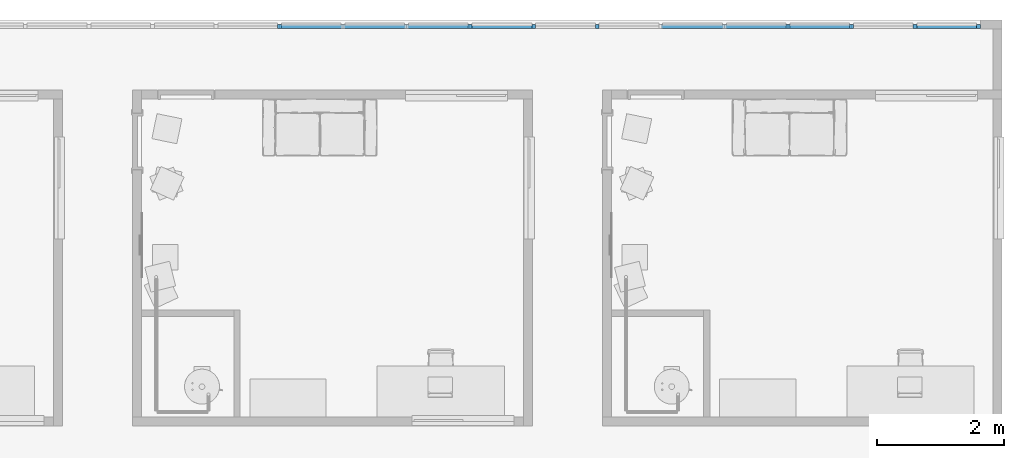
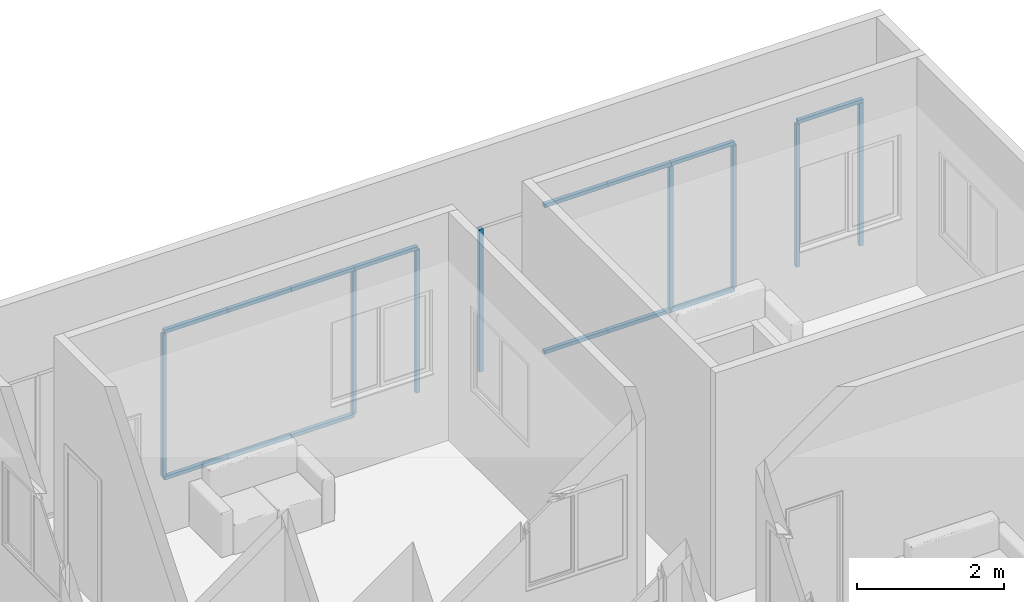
# One storey, part 4 of 69: 22 members, 1 element without a shape of its own.
"""IFC4 building model written with IfcOpenShell, lengths in centimetres."""

import ifcopenshell
import ifcopenshell.guid

model = None  # the IFC model being written
_history = None  # IfcOwnerHistory: only IFC2X3 demands one
_inside = {}  # id of a spatial element -> (the spatial element, [elements in it])
_under = {}  # id of a project, library or spatial element -> (it, [spatial elements below it])
_declared = {}  # id of a project -> (the project, [libraries it declares])
_typed = {}  # id of a type object -> (the type object, [elements of that type])
_made_of = {}  # id of a material, layer set ... -> (it, [elements and type objects made of it])


def new_model(schema):
    """Start an empty IFC model of exactly this schema.

    Asked for "IFC4X3", IfcOpenShell would pick the latest addendum, in which some entities
    have other attributes; the version numbers below select the first issue.
    IFC2X3 requires an IfcOwnerHistory on every rooted entity: one is made here for all.
    """
    global model, _history
    if schema == "IFC4X3":
        model = ifcopenshell.file(schema_version=(4, 3, 0, 0))
    else:
        model = ifcopenshell.file(schema=schema)
    _inside.clear()
    _under.clear()
    _declared.clear()
    _typed.clear()
    _made_of.clear()
    _history = None
    if model.schema == "IFC2X3":
        org = make("IfcOrganization", Name="unknown")
        user = make(
            "IfcPersonAndOrganization",
            ThePerson=make("IfcPerson", FamilyName="unknown"),
            TheOrganization=org,
        )
        app = make(
            "IfcApplication",
            ApplicationDeveloper=org,
            Version="unknown",
            ApplicationFullName="unknown",
            ApplicationIdentifier="unknown",
        )
        _history = make(
            "IfcOwnerHistory",
            OwningUser=user,
            OwningApplication=app,
            ChangeAction="ADDED",
            CreationDate=0,
        )
    return model


def make(cls, **values):
    """One entity of the class cls with the attributes given. An attribute that is None is left unset."""
    return model.create_entity(
        cls, **{name: value for name, value in values.items() if value is not None}
    )


def entity(cls, *values):
    """Any entity or typed value of the class cls, its attributes in the order of the schema. None: left unset."""
    e = model.create_entity(cls)
    for i, value in enumerate(values):
        if value is not None:
            e[i] = value
    return e


def rooted(cls, **values):
    """An entity with a GlobalId (a new one), such as an element, a storey or a relation."""
    return make(cls, GlobalId=ifcopenshell.guid.new(), OwnerHistory=_history, **values)


def si_unit(unit_type, name, prefix=None):
    """IfcSIUnit, for example si_unit("LENGTHUNIT", "METRE", prefix="MILLI")."""
    return make("IfcSIUnit", UnitType=unit_type, Prefix=prefix, Name=name)


def converted_unit(unit_type, name, factor, base, dimensions=None, offset=None):
    """IfcConversionBasedUnit, such as the inch: factor (a typed value) times the base unit."""
    return make(
        "IfcConversionBasedUnit"
        if offset is None
        else "IfcConversionBasedUnitWithOffset",
        ConversionOffset=offset,
        Dimensions=None
        if dimensions is None
        else entity("IfcDimensionalExponents", *dimensions),
        UnitType=unit_type,
        Name=name,
        ConversionFactor=make(
            "IfcMeasureWithUnit", ValueComponent=factor, UnitComponent=base
        ),
    )


def derived_unit(unit_type, elements):
    """IfcDerivedUnit: a product of units, each with its exponent."""
    return make(
        "IfcDerivedUnit",
        Elements=[
            make("IfcDerivedUnitElement", Unit=unit, Exponent=power)
            for unit, power in elements
        ],
        UnitType=unit_type,
    )


def assignment(units):
    """IfcUnitAssignment: the units of a project."""
    return None if units is None else make("IfcUnitAssignment", Units=units)


def point(xyz):
    """IfcCartesianPoint."""
    return None if xyz is None else make("IfcCartesianPoint", Coordinates=xyz)


def direction(xyz):
    """IfcDirection."""
    return None if xyz is None else make("IfcDirection", DirectionRatios=xyz)


def frame(location, z_axis=None, x_axis=None):
    """IfcAxis2Placement3D, a coordinate frame: its origin and axes. An axis left out is left unset."""
    return make(
        "IfcAxis2Placement3D",
        Location=point(location),
        Axis=direction(z_axis),
        RefDirection=direction(x_axis),
    )


def origin():
    """The frame at (0, 0, 0) with its axes left unset."""
    return frame((0.0, 0.0, 0.0))


def place(relative_to, where):
    """IfcLocalPlacement: puts the frame where relative to a parent placement (None: the world)."""
    return make(
        "IfcLocalPlacement", PlacementRelTo=relative_to, RelativePlacement=where
    )


def context(
    kind, dimensions, precision=None, world=None, true_north=None, identifier=None
):
    """IfcGeometricRepresentationContext, for example the 3D "Model" context."""
    return make(
        "IfcGeometricRepresentationContext",
        ContextIdentifier=identifier,
        ContextType=kind,
        CoordinateSpaceDimension=dimensions,
        Precision=precision,
        WorldCoordinateSystem=world,
        TrueNorth=true_north,
    )


def subcontext(parent, identifier, kind, view, scale=None):
    """IfcGeometricRepresentationSubContext, for example "Body" below "Model"."""
    return make(
        "IfcGeometricRepresentationSubContext",
        ContextIdentifier=identifier,
        ContextType=kind,
        ParentContext=parent,
        TargetScale=scale,
        TargetView=view,
    )


def project(units=None, contexts=None):
    """IfcProject with its units and contexts."""
    return rooted(
        "IfcProject",
        Name="project",
        RepresentationContexts=contexts,
        UnitsInContext=assignment(units),
    )


def spatial(cls, under=None, at=None, **own):
    """A site, building, storey or space (cls), placed at a placement, below another one or the project."""
    s = rooted(cls, ObjectPlacement=at, **own)
    if under is not None:
        _under.setdefault(under.id(), (under, []))[1].append(s)
    return s


def point_list(points):
    """IfcCartesianPointList2D or 3D."""
    cls = (
        "IfcCartesianPointList2D" if len(points[0]) == 2 else "IfcCartesianPointList3D"
    )
    return make(cls, CoordList=points)


def indexed_curve(points, segments=None, self_intersect=None):
    """IfcIndexedPolyCurve: lines and arcs through numbered points (the first is 1)."""
    return make(
        "IfcIndexedPolyCurve",
        Points=point_list(points),
        Segments=segments,
        SelfIntersect=self_intersect,
    )


def outline(outer, holes=None, kind="AREA"):
    """IfcArbitraryClosedProfileDef: a profile drawn as a closed curve; with holes, ...WithVoids."""
    if holes is None:
        return make("IfcArbitraryClosedProfileDef", ProfileType=kind, OuterCurve=outer)
    return make(
        "IfcArbitraryProfileDefWithVoids",
        ProfileType=kind,
        OuterCurve=outer,
        InnerCurves=holes,
    )


def extrude(swept, where, along, depth):
    """IfcExtrudedAreaSolid: the profile swept, set in the frame where, extruded along a direction by depth."""
    return make(
        "IfcExtrudedAreaSolid",
        SweptArea=swept,
        Position=where,
        ExtrudedDirection=direction(along),
        Depth=depth,
    )


def shape(context_of_items, identifier, shape_type, items):
    """IfcShapeRepresentation: the items that make up one representation, for example the "Body"."""
    return make(
        "IfcShapeRepresentation",
        ContextOfItems=context_of_items,
        RepresentationIdentifier=identifier,
        RepresentationType=shape_type,
        Items=items,
    )


def source(mapping_origin, context_of_items, identifier, shape_type, items):
    """IfcRepresentationMap: a shape defined once, which mapped items show again and again."""
    return make(
        "IfcRepresentationMap",
        MappingOrigin=mapping_origin,
        MappedRepresentation=shape(context_of_items, identifier, shape_type, items),
    )


def transform(
    local_origin,
    x_axis=None,
    y_axis=None,
    z_axis=None,
    scale=None,
    scale2=None,
    scale3=None,
    uniform=True,
):
    """IfcCartesianTransformationOperator3D, or its non-uniform kind. x_axis, y_axis, z_axis: its Axis1, 2, 3."""
    if uniform:
        return make(
            "IfcCartesianTransformationOperator3D",
            Axis1=direction(x_axis),
            Axis2=direction(y_axis),
            LocalOrigin=point(local_origin),
            Scale=scale,
            Axis3=direction(z_axis),
        )
    return make(
        "IfcCartesianTransformationOperator3DnonUniform",
        Axis1=direction(x_axis),
        Axis2=direction(y_axis),
        LocalOrigin=point(local_origin),
        Scale=scale,
        Axis3=direction(z_axis),
        Scale2=scale2,
        Scale3=scale3,
    )


def mapped(mapping_source, mapping_target):
    """IfcMappedItem: shows the shape of a source again, moved by a transform."""
    return make(
        "IfcMappedItem", MappingSource=mapping_source, MappingTarget=mapping_target
    )


def material(Name=None, Category=None):
    """IfcMaterial."""
    return make("IfcMaterial", Name=Name, Category=Category)


def made_of(thing, what):
    """Note that an element or type object is made of a material, layer set ...; save() writes the relation."""
    if what is not None:
        _made_of.setdefault(what.id(), (what, []))[1].append(thing)
    return thing


def type_object(cls, material=None, **own):
    """A type object (cls), such as IfcWallType, which elements share."""
    return made_of(rooted(cls, **own), material)


def type_shapes(of_type, sources):
    """Give a type object the sources (RepresentationMaps) that its elements show as mapped items."""
    of_type.RepresentationMaps = sources


def element(
    cls,
    number,
    at=None,
    inside=None,
    cuts=None,
    type_object=None,
    material=None,
    context=None,
    identifier="Body",
    shape_type=None,
    held_by="IfcProductDefinitionShape",
    body=None,
    shapes=None,
    **own,
):
    """One element of the class cls, such as IfcWall. Its Tag is "e" and its number.

    at: its placement. inside: the storey or other place that contains it. cuts: it is an
    opening in that element (IfcRelVoidsElement). A single representation is given by context,
    identifier, shape_type and body (its items); several are given by shapes. held_by: the class
    of the entity that holds the representations. save() writes the other relations.
    """
    e = rooted(cls, Tag="e%d" % number, ObjectPlacement=at, **own)
    if body is not None:
        shapes = [shape(context, identifier, shape_type, body)]
    if shapes is not None:
        e.Representation = make(held_by, Representations=shapes)
    if inside is not None:
        _inside.setdefault(inside.id(), (inside, []))[1].append(e)
    if cuts is not None:
        rooted(
            "IfcRelVoidsElement", RelatingBuildingElement=cuts, RelatedOpeningElement=e
        )
    if type_object is not None:
        _typed.setdefault(type_object.id(), (type_object, []))[1].append(e)
    return made_of(e, material)


def aggregate(whole, parts):
    """IfcRelAggregates: a whole, such as a stair, and the parts it consists of."""
    return rooted("IfcRelAggregates", RelatingObject=whole, RelatedObjects=parts)


def save(model, path):
    """Write the relations noted so far, then the file.

    IfcRelAggregates (storeys below a building ...), IfcRelContainedInSpatialStructure (elements
    in a storey), IfcRelDefinesByType, IfcRelAssociatesMaterial and IfcRelDeclares: one each for
    every whole, place, type object, material and project.
    """
    for whole, parts in _under.values():
        aggregate(whole, parts)
    for where, things in _inside.values():
        rooted(
            "IfcRelContainedInSpatialStructure",
            RelatedElements=things,
            RelatingStructure=where,
        )
    for kind, things in _typed.values():
        rooted("IfcRelDefinesByType", RelatedObjects=things, RelatingType=kind)
    for what, things in _made_of.values():
        rooted("IfcRelAssociatesMaterial", RelatedObjects=things, RelatingMaterial=what)
    for by, libraries in _declared.values():
        rooted("IfcRelDeclares", RelatingContext=by, RelatedDefinitions=libraries)
    model.write(path)


model = new_model("IFC4")

# Units and contexts
model_context = context("Model", 3, precision=0.001, world=origin(), true_north=direction((6.123233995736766e-17, 1.0)))
body_context = subcontext(model_context, "Body", "Model", "MODEL_VIEW")
ifc_project = project(units=[si_unit("LENGTHUNIT", "METRE", prefix="CENTI"), si_unit("AREAUNIT", "SQUARE_METRE"), si_unit("VOLUMEUNIT", "CUBIC_METRE"), derived_unit("THERMALTRANSMITTANCEUNIT", [(si_unit("MASSUNIT", "GRAM", prefix="KILO"), 1), (si_unit("THERMODYNAMICTEMPERATUREUNIT", "KELVIN"), -1), (si_unit("TIMEUNIT", "SECOND"), -3)]), converted_unit("PLANEANGLEUNIT", "DEGREE", entity("IfcPlaneAngleMeasure", 0.017453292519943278), si_unit("PLANEANGLEUNIT", "RADIAN"), dimensions=[0, 0, 0, 0, 0, 0, 0]), derived_unit("MASSDENSITYUNIT", [(si_unit("MASSUNIT", "GRAM", prefix="KILO"), 1), (si_unit("LENGTHUNIT", "METRE"), -3)]), derived_unit("VAPORPERMEABILITYUNIT", [(si_unit("LENGTHUNIT", "METRE"), -1), (si_unit("TIMEUNIT", "SECOND"), 1)]), derived_unit("USERDEFINED", [(si_unit("MASSUNIT", "GRAM", prefix="KILO"), 1), (si_unit("TIMEUNIT", "SECOND"), -3), (si_unit("LENGTHUNIT", "METRE"), 3), (si_unit("ELECTRICCURRENTUNIT", "AMPERE"), -2)]), derived_unit("SPECIFICHEATCAPACITYUNIT", [(si_unit("THERMODYNAMICTEMPERATUREUNIT", "KELVIN"), -1), (si_unit("LENGTHUNIT", "METRE"), 2), (si_unit("TIMEUNIT", "SECOND"), -2)]), derived_unit("THERMALCONDUCTANCEUNIT", [(si_unit("MASSUNIT", "GRAM", prefix="KILO"), 1), (si_unit("THERMODYNAMICTEMPERATUREUNIT", "KELVIN"), -1), (si_unit("TIMEUNIT", "SECOND"), -3), (si_unit("LENGTHUNIT", "METRE"), 1)]), si_unit("PRESSUREUNIT", "PASCAL"), derived_unit("MODULUSOFELASTICITYUNIT", [(si_unit("MASSUNIT", "GRAM", prefix="KILO"), 1), (si_unit("LENGTHUNIT", "METRE"), -1), (si_unit("TIMEUNIT", "SECOND"), -2)]), derived_unit("THERMALEXPANSIONCOEFFICIENTUNIT", [(si_unit("THERMODYNAMICTEMPERATUREUNIT", "KELVIN"), -1)])], contexts=[model_context])

# Site, building, storey
site_placement = place(None, origin())
site = spatial("IfcSite", under=ifc_project, at=site_placement, Name="Default", CompositionType="ELEMENT")
building_placement = place(site_placement, origin())
building = spatial("IfcBuilding", under=site, at=building_placement, Name="IDS Escape Game Building", CompositionType="ELEMENT")
storey_placement = place(building_placement, origin())
storey = spatial("IfcBuildingStorey", under=building, at=storey_placement, Name="00_Ground Floor", CompositionType="ELEMENT", Elevation=0.0)

# Curtain wall, members
curtain_wall_type = type_object("IfcCurtainWallType", Name="Curtain Wall:ARC_31.3_CWA_LIB_bandraam vast 100cm - profiel 60x60_gen_BERSnl", PredefinedType="NOTDEFINED")
curtain_wall_placement = place(storey_placement, origin())
curtain_wall = element("IfcCurtainWall", 1, at=curtain_wall_placement, inside=storey, type_object=curtain_wall_type, Name="Curtain Wall:ARC_31.3_CWA_LIB_bandraam vast 100cm - profiel 60x60_gen_BERSnl", ObjectType="Curtain Wall:ARC_31.3_CWA_LIB_bandraam vast 100cm - profiel 60x60_gen_BERSnl", PredefinedType="NOTDEFINED")
ifc_material = material(Name="<Unnamed>")
member_type_1 = type_object("IfcMemberType", Name="Rectangular Mullion:30-_Stijl_Rechthoek_Midden_B60xD60", PredefinedType="MULLION", material=ifc_material)
shared_shape_1 = source(origin(), body_context, "Body", "SweptSolid", [
    extrude(outline(indexed_curve([(-3.0, -3.0), (3.0, -3.0), (3.0, 3.0), (-3.0, 3.0), (-3.0, -3.0)], self_intersect=False)), frame((-3.0, 3.0, -102.84313728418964), z_axis=(0.0, 0.0, 1.0), x_axis=(-1.0, 0.0, 0.0)), (0.0, 0.0, 1.0), 102.84313728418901),
])
type_shapes(member_type_1, [shared_shape_1])
member_1_placement = place(curtain_wall_placement, frame((5015.0, 3182.0, 250.0), z_axis=(1.0, 0.0, 0.0), x_axis=(0.0, 0.0, 1.0)))
member_1 = element("IfcMember", 2, at=member_1_placement, type_object=member_type_1, material=ifc_material, Name="Rectangular Mullion:30-_Stijl_Rechthoek_Midden_B60xD60", ObjectType="Rectangular Mullion:30-_Stijl_Rechthoek_Midden_B60xD60", PredefinedType="MULLION", context=body_context, shape_type="MappedRepresentation", body=[
    mapped(shared_shape_1, transform((0.0, 0.0, 0.0), scale=1.0)),
])
member_type_2 = type_object("IfcMemberType", Name="Rectangular Mullion:30-_Stijl_Rechthoek_Midden_B60xD60", PredefinedType="MULLION", material=ifc_material)
shared_shape_2 = source(origin(), body_context, "Body", "SweptSolid", [
    extrude(outline(indexed_curve([(-3.0, -3.0), (3.0, -3.0), (3.0, 3.0), (-3.0, 3.0), (-3.0, -3.0)], self_intersect=False)), frame((-3.0, 3.0, -99.84313725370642), z_axis=(0.0, 0.0, 1.0), x_axis=(-1.0, 0.0, 0.0)), (0.0, 0.0, 1.0), 99.84313725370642),
])
type_shapes(member_type_2, [shared_shape_2])
member_2_placement = place(curtain_wall_placement, frame((4013.568627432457, 3182.0, 250.0), z_axis=(1.0, 0.0, 0.0), x_axis=(0.0, 0.0, 1.0)))
member_2 = element("IfcMember", 3, at=member_2_placement, type_object=member_type_2, material=ifc_material, Name="Rectangular Mullion:30-_Stijl_Rechthoek_Midden_B60xD60", ObjectType="Rectangular Mullion:30-_Stijl_Rechthoek_Midden_B60xD60", PredefinedType="MULLION", context=body_context, shape_type="MappedRepresentation", body=[
    mapped(shared_shape_2, transform((0.0, 0.0, 0.0), scale=1.0)),
])
member_3_placement = place(curtain_wall_placement, frame((4113.411764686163, 3182.0, 250.0), z_axis=(1.0, 0.0, 0.0), x_axis=(0.0, 0.0, 1.0)))
member_3 = element("IfcMember", 4, at=member_3_placement, type_object=member_type_2, material=ifc_material, Name="Rectangular Mullion:30-_Stijl_Rechthoek_Midden_B60xD60", ObjectType="Rectangular Mullion:30-_Stijl_Rechthoek_Midden_B60xD60", PredefinedType="MULLION", context=body_context, shape_type="MappedRepresentation", body=[
    mapped(shared_shape_2, transform((0.0, 0.0, 0.0), scale=1.0)),
])
member_4_placement = place(curtain_wall_placement, frame((4213.25490193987, 3182.0, 250.0), z_axis=(1.0, 0.0, 0.0), x_axis=(0.0, 0.0, 1.0)))
member_4 = element("IfcMember", 5, at=member_4_placement, type_object=member_type_2, material=ifc_material, Name="Rectangular Mullion:30-_Stijl_Rechthoek_Midden_B60xD60", ObjectType="Rectangular Mullion:30-_Stijl_Rechthoek_Midden_B60xD60", PredefinedType="MULLION", context=body_context, shape_type="MappedRepresentation", body=[
    mapped(shared_shape_2, transform((0.0, 0.0, 0.0), scale=1.0)),
])
member_5_placement = place(curtain_wall_placement, frame((4313.098039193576, 3182.0, 250.0), z_axis=(1.0, 0.0, 0.0), x_axis=(0.0, 0.0, 1.0)))
member_5 = element("IfcMember", 6, at=member_5_placement, type_object=member_type_2, material=ifc_material, Name="Rectangular Mullion:30-_Stijl_Rechthoek_Midden_B60xD60", ObjectType="Rectangular Mullion:30-_Stijl_Rechthoek_Midden_B60xD60", PredefinedType="MULLION", context=body_context, shape_type="MappedRepresentation", body=[
    mapped(shared_shape_2, transform((0.0, 0.0, 0.0), scale=1.0)),
])
member_6_placement = place(curtain_wall_placement, frame((4612.6274509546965, 3182.0, 250.0), z_axis=(1.0, 0.0, 0.0), x_axis=(0.0, 0.0, 1.0)))
member_6 = element("IfcMember", 7, at=member_6_placement, type_object=member_type_2, material=ifc_material, Name="Rectangular Mullion:30-_Stijl_Rechthoek_Midden_B60xD60", ObjectType="Rectangular Mullion:30-_Stijl_Rechthoek_Midden_B60xD60", PredefinedType="MULLION", context=body_context, shape_type="MappedRepresentation", body=[
    mapped(shared_shape_2, transform((0.0, 0.0, 0.0), scale=1.0)),
])
member_7_placement = place(curtain_wall_placement, frame((4712.470588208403, 3182.0, 250.0), z_axis=(1.0, 0.0, 0.0), x_axis=(0.0, 0.0, 1.0)))
member_7 = element("IfcMember", 8, at=member_7_placement, type_object=member_type_2, material=ifc_material, Name="Rectangular Mullion:30-_Stijl_Rechthoek_Midden_B60xD60", ObjectType="Rectangular Mullion:30-_Stijl_Rechthoek_Midden_B60xD60", PredefinedType="MULLION", context=body_context, shape_type="MappedRepresentation", body=[
    mapped(shared_shape_2, transform((0.0, 0.0, 0.0), scale=1.0)),
])
member_8_placement = place(curtain_wall_placement, frame((4812.31372546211, 3182.0, 250.0), z_axis=(1.0, 0.0, 0.0), x_axis=(0.0, 0.0, 1.0)))
member_8 = element("IfcMember", 9, at=member_8_placement, type_object=member_type_2, material=ifc_material, Name="Rectangular Mullion:30-_Stijl_Rechthoek_Midden_B60xD60", ObjectType="Rectangular Mullion:30-_Stijl_Rechthoek_Midden_B60xD60", PredefinedType="MULLION", context=body_context, shape_type="MappedRepresentation", body=[
    mapped(shared_shape_2, transform((0.0, 0.0, 0.0), scale=1.0)),
])
member_type_3 = type_object("IfcMemberType", Name="Rectangular Mullion:30-_Stijl_Rechthoek_Midden_B60xD60", PredefinedType="MULLION", material=ifc_material)
shared_shape_3 = source(origin(), body_context, "Body", "SweptSolid", [
    extrude(outline(indexed_curve([(-3.0, -3.0), (3.0, -3.0), (3.0, 3.0), (-3.0, 3.0), (-3.0, -3.0)], self_intersect=False)), frame((-3.0, 3.0, -99.84313725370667), z_axis=(0.0, 0.0, 1.0), x_axis=(-1.0, 0.0, 0.0)), (0.0, 0.0, 1.0), 99.84313725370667),
])
type_shapes(member_type_3, [shared_shape_3])
member_9_placement = place(curtain_wall_placement, frame((3913.7254901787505, 3182.0, 0.0), z_axis=(-1.0, 0.0, 0.0), x_axis=(0.0, 0.0, -1.0)))
member_9 = element("IfcMember", 10, at=member_9_placement, type_object=member_type_3, material=ifc_material, Name="Rectangular Mullion:30-_Stijl_Rechthoek_Midden_B60xD60", ObjectType="Rectangular Mullion:30-_Stijl_Rechthoek_Midden_B60xD60", PredefinedType="MULLION", context=body_context, shape_type="MappedRepresentation", body=[
    mapped(shared_shape_3, transform((0.0, 0.0, 0.0), scale=1.0)),
])
member_10_placement = place(curtain_wall_placement, frame((4013.568627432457, 3182.0, 0.0), z_axis=(-1.0, 0.0, 0.0), x_axis=(0.0, 0.0, -1.0)))
member_10 = element("IfcMember", 11, at=member_10_placement, type_object=member_type_3, material=ifc_material, Name="Rectangular Mullion:30-_Stijl_Rechthoek_Midden_B60xD60", ObjectType="Rectangular Mullion:30-_Stijl_Rechthoek_Midden_B60xD60", PredefinedType="MULLION", context=body_context, shape_type="MappedRepresentation", body=[
    mapped(shared_shape_3, transform((0.0, 0.0, 0.0), scale=1.0)),
])
member_11_placement = place(curtain_wall_placement, frame((4113.411764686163, 3182.0, 0.0), z_axis=(-1.0, 0.0, 0.0), x_axis=(0.0, 0.0, -1.0)))
member_11 = element("IfcMember", 12, at=member_11_placement, type_object=member_type_3, material=ifc_material, Name="Rectangular Mullion:30-_Stijl_Rechthoek_Midden_B60xD60", ObjectType="Rectangular Mullion:30-_Stijl_Rechthoek_Midden_B60xD60", PredefinedType="MULLION", context=body_context, shape_type="MappedRepresentation", body=[
    mapped(shared_shape_3, transform((0.0, 0.0, 0.0), scale=1.0)),
])
member_12_placement = place(curtain_wall_placement, frame((4512.7843137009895, 3182.0, 0.0), z_axis=(-1.0, 0.0, 0.0), x_axis=(0.0, 0.0, -1.0)))
member_12 = element("IfcMember", 13, at=member_12_placement, type_object=member_type_3, material=ifc_material, Name="Rectangular Mullion:30-_Stijl_Rechthoek_Midden_B60xD60", ObjectType="Rectangular Mullion:30-_Stijl_Rechthoek_Midden_B60xD60", PredefinedType="MULLION", context=body_context, shape_type="MappedRepresentation", body=[
    mapped(shared_shape_3, transform((0.0, 0.0, 0.0), scale=1.0)),
])
member_13_placement = place(curtain_wall_placement, frame((4612.6274509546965, 3182.0, 0.0), z_axis=(-1.0, 0.0, 0.0), x_axis=(0.0, 0.0, -1.0)))
member_13 = element("IfcMember", 14, at=member_13_placement, type_object=member_type_3, material=ifc_material, Name="Rectangular Mullion:30-_Stijl_Rechthoek_Midden_B60xD60", ObjectType="Rectangular Mullion:30-_Stijl_Rechthoek_Midden_B60xD60", PredefinedType="MULLION", context=body_context, shape_type="MappedRepresentation", body=[
    mapped(shared_shape_3, transform((0.0, 0.0, 0.0), scale=1.0)),
])
member_14_placement = place(curtain_wall_placement, frame((4712.470588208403, 3182.0, 0.0), z_axis=(-1.0, 0.0, 0.0), x_axis=(0.0, 0.0, -1.0)))
member_14 = element("IfcMember", 15, at=member_14_placement, type_object=member_type_3, material=ifc_material, Name="Rectangular Mullion:30-_Stijl_Rechthoek_Midden_B60xD60", ObjectType="Rectangular Mullion:30-_Stijl_Rechthoek_Midden_B60xD60", PredefinedType="MULLION", context=body_context, shape_type="MappedRepresentation", body=[
    mapped(shared_shape_3, transform((0.0, 0.0, 0.0), scale=1.0)),
])
member_type_4 = type_object("IfcMemberType", Name="Rectangular Mullion:30-_Stijl_Rechthoek_Midden_B60xD60", PredefinedType="MULLION", material=ifc_material)
shared_shape_4 = source(origin(), body_context, "Body", "SweptSolid", [
    extrude(outline(indexed_curve([(-3.0, -3.0), (3.0, -3.0), (3.0, 3.0), (-3.0, 3.0), (-3.0, -3.0)], self_intersect=False)), frame((-3.0, 3.0, -238.0), z_axis=(0.0, 0.0, 1.0), x_axis=(-1.0, 0.0, 0.0)), (0.0, 0.0, 1.0), 238.00000000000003),
])
type_shapes(member_type_4, [shared_shape_4])
member_15_placement = place(curtain_wall_placement, frame((5015.0, 3182.0, 6.0), z_axis=(0.0, 0.0, -1.0), x_axis=(1.0, 0.0, 0.0)))
member_15 = element("IfcMember", 16, at=member_15_placement, type_object=member_type_4, material=ifc_material, Name="Rectangular Mullion:30-_Stijl_Rechthoek_Midden_B60xD60", ObjectType="Rectangular Mullion:30-_Stijl_Rechthoek_Midden_B60xD60", PredefinedType="MULLION", context=body_context, shape_type="MappedRepresentation", body=[
    mapped(shared_shape_4, transform((0.0, 0.0, 0.0), scale=1.0)),
])
member_type_5 = type_object("IfcMemberType", Name="Rectangular Mullion:30-_Stijl_Rechthoek_Midden_B60xD60", PredefinedType="MULLION", material=ifc_material)
shared_shape_5 = source(origin(), body_context, "Body", "SweptSolid", [
    extrude(outline(indexed_curve([(-3.0, -3.0), (3.0, -3.0), (3.0, 3.0), (-3.0, 3.0), (-3.0, -3.0)], self_intersect=False)), frame((0.0, 3.0, -238.0), z_axis=(0.0, 0.0, 1.0), x_axis=(-1.0, 0.0, 0.0)), (0.0, 0.0, 1.0), 238.00000000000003),
])
type_shapes(member_type_5, [shared_shape_5])
member_16_placement = place(curtain_wall_placement, frame((3913.7254901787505, 3182.0, 6.0), z_axis=(0.0, 0.0, -1.0), x_axis=(1.0, 0.0, 0.0)))
member_16 = element("IfcMember", 17, at=member_16_placement, type_object=member_type_5, material=ifc_material, Name="Rectangular Mullion:30-_Stijl_Rechthoek_Midden_B60xD60", ObjectType="Rectangular Mullion:30-_Stijl_Rechthoek_Midden_B60xD60", PredefinedType="MULLION", context=body_context, shape_type="MappedRepresentation", body=[
    mapped(shared_shape_5, transform((0.0, 0.0, 0.0), scale=1.0)),
])
member_17_placement = place(curtain_wall_placement, frame((4213.25490193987, 3182.0, 6.0), z_axis=(0.0, 0.0, -1.0), x_axis=(1.0, 0.0, 0.0)))
member_17 = element("IfcMember", 18, at=member_17_placement, type_object=member_type_5, material=ifc_material, Name="Rectangular Mullion:30-_Stijl_Rechthoek_Midden_B60xD60", ObjectType="Rectangular Mullion:30-_Stijl_Rechthoek_Midden_B60xD60", PredefinedType="MULLION", context=body_context, shape_type="MappedRepresentation", body=[
    mapped(shared_shape_5, transform((0.0, 0.0, 0.0), scale=1.0)),
])
member_18_placement = place(curtain_wall_placement, frame((4313.098039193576, 3182.0, 6.0), z_axis=(0.0, 0.0, -1.0), x_axis=(1.0, 0.0, 0.0)))
member_18 = element("IfcMember", 19, at=member_18_placement, type_object=member_type_5, material=ifc_material, Name="Rectangular Mullion:30-_Stijl_Rechthoek_Midden_B60xD60", ObjectType="Rectangular Mullion:30-_Stijl_Rechthoek_Midden_B60xD60", PredefinedType="MULLION", context=body_context, shape_type="MappedRepresentation", body=[
    mapped(shared_shape_5, transform((0.0, 0.0, 0.0), scale=1.0)),
])
member_19_placement = place(curtain_wall_placement, frame((4412.941176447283, 3182.0, 6.0), z_axis=(0.0, 0.0, -1.0), x_axis=(1.0, 0.0, 0.0)))
member_19 = element("IfcMember", 20, at=member_19_placement, type_object=member_type_5, material=ifc_material, Name="Rectangular Mullion:30-_Stijl_Rechthoek_Midden_B60xD60", ObjectType="Rectangular Mullion:30-_Stijl_Rechthoek_Midden_B60xD60", PredefinedType="MULLION", context=body_context, shape_type="MappedRepresentation", body=[
    mapped(shared_shape_5, transform((0.0, 0.0, 0.0), scale=1.0)),
])
member_20_placement = place(curtain_wall_placement, frame((4712.470588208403, 3182.0, 6.0), z_axis=(0.0, 0.0, -1.0), x_axis=(1.0, 0.0, 0.0)))
member_20 = element("IfcMember", 21, at=member_20_placement, type_object=member_type_5, material=ifc_material, Name="Rectangular Mullion:30-_Stijl_Rechthoek_Midden_B60xD60", ObjectType="Rectangular Mullion:30-_Stijl_Rechthoek_Midden_B60xD60", PredefinedType="MULLION", context=body_context, shape_type="MappedRepresentation", body=[
    mapped(shared_shape_5, transform((0.0, 0.0, 0.0), scale=1.0)),
])
member_21_placement = place(curtain_wall_placement, frame((4812.31372546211, 3182.0, 6.0), z_axis=(0.0, 0.0, -1.0), x_axis=(1.0, 0.0, 0.0)))
member_21 = element("IfcMember", 22, at=member_21_placement, type_object=member_type_5, material=ifc_material, Name="Rectangular Mullion:30-_Stijl_Rechthoek_Midden_B60xD60", ObjectType="Rectangular Mullion:30-_Stijl_Rechthoek_Midden_B60xD60", PredefinedType="MULLION", context=body_context, shape_type="MappedRepresentation", body=[
    mapped(shared_shape_5, transform((0.0, 0.0, 0.0), scale=1.0)),
])
member_22_placement = place(curtain_wall_placement, frame((4912.156862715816, 3182.0, 6.0), z_axis=(0.0, 0.0, -1.0), x_axis=(1.0, 0.0, 0.0)))
member_22 = element("IfcMember", 23, at=member_22_placement, type_object=member_type_5, material=ifc_material, Name="Rectangular Mullion:30-_Stijl_Rechthoek_Midden_B60xD60", ObjectType="Rectangular Mullion:30-_Stijl_Rechthoek_Midden_B60xD60", PredefinedType="MULLION", context=body_context, shape_type="MappedRepresentation", body=[
    mapped(shared_shape_5, transform((0.0, 0.0, 0.0), scale=1.0)),
])
aggregate(curtain_wall, [member_1, member_2, member_3, member_4, member_5, member_6, member_7, member_8, member_9, member_10, member_11, member_12, member_13, member_14, member_15, member_16, member_17, member_18, member_19, member_20, member_21, member_22])

save(model, "model.ifc")
